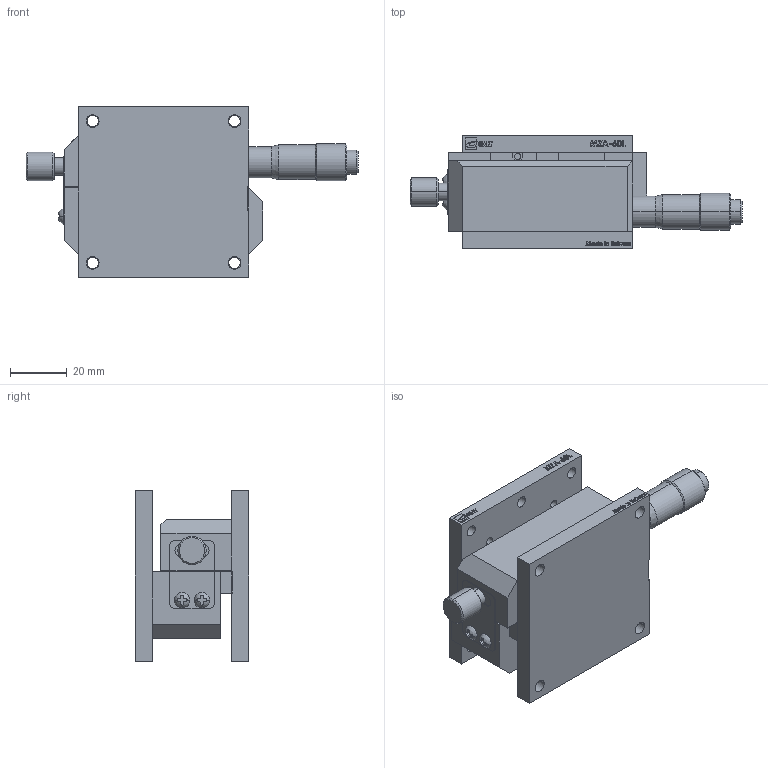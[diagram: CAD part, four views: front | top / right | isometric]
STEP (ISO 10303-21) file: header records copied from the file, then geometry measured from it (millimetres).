
FILE_DESCRIPTION (( 'STEP AP203' ), '1' );
FILE_NAME ('MZA-60L.STEP', '2008-07-21T00:46:59', ( '陳志豪' ), ( '高明鐵企業股份有限公司' ), 'SwSTEP 2.0', 'SolidWorks 2007', '' );
FILE_SCHEMA (( 'CONFIG_CONTROL_DESIGN' ));
Length unit declared in the file: millimetre
Products named in the file (1): MZA-60L
Bounding box: 117 x 40 x 60 mm (x, y, z)
Volume: 115076.7 mm3; surface area: 36119.6 mm2
Topology: 9 solids, 9 shells, 506 faces, 1331 edges, 881 vertices
Faces by surface type: plane 293, cylinder 118, bspline 79, cone 12, torus 4
Entity records: 19876 total; most frequent: CARTESIAN_POINT 7566, ORIENTED_EDGE 2662, DIRECTION 2255, EDGE_CURVE 1331, VECTOR 899, LINE 899, VERTEX_POINT 881, AXIS2_PLACEMENT_3D 678
